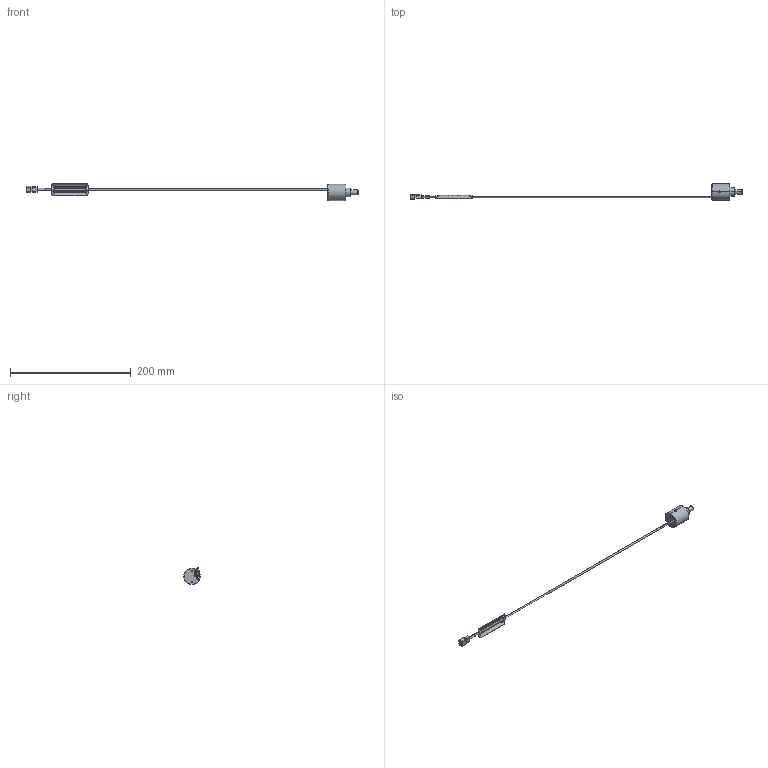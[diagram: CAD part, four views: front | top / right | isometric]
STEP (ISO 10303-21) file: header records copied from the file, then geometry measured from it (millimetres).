
FILE_DESCRIPTION (( 'STEP AP214' ), '1' );
FILE_NAME ('MCEP-C#8シリーズ_A09338A01.STEP', '2013-09-02T08:41:53', ( 'koikem' ), ( 'モリテックス' ), 'SwSTEP 2.0', 'SolidWorks 2011', '' );
FILE_SCHEMA (( 'AUTOMOTIVE_DESIGN' ));
Length unit declared in the file: millimetre
Products named in the file (1): MCEP-C#8僔儕乕僘_A09338A01
Bounding box: 550 x 27 x 28.25 mm (x, y, z)
Volume: 24554.8 mm3; surface area: 13095.2 mm2
Topology: 3 solids, 8 shells, 339 faces, 1018 edges, 722 vertices
Faces by surface type: plane 168, cylinder 141, cone 24, torus 6
Entity records: 18874 total; most frequent: CARTESIAN_POINT 5897, ORIENTED_EDGE 2036, DIRECTION 1801, EDGE_CURVE 1018, VERTEX_POINT 722, AXIS2_PLACEMENT_3D 621, LINE 559, VECTOR 559
